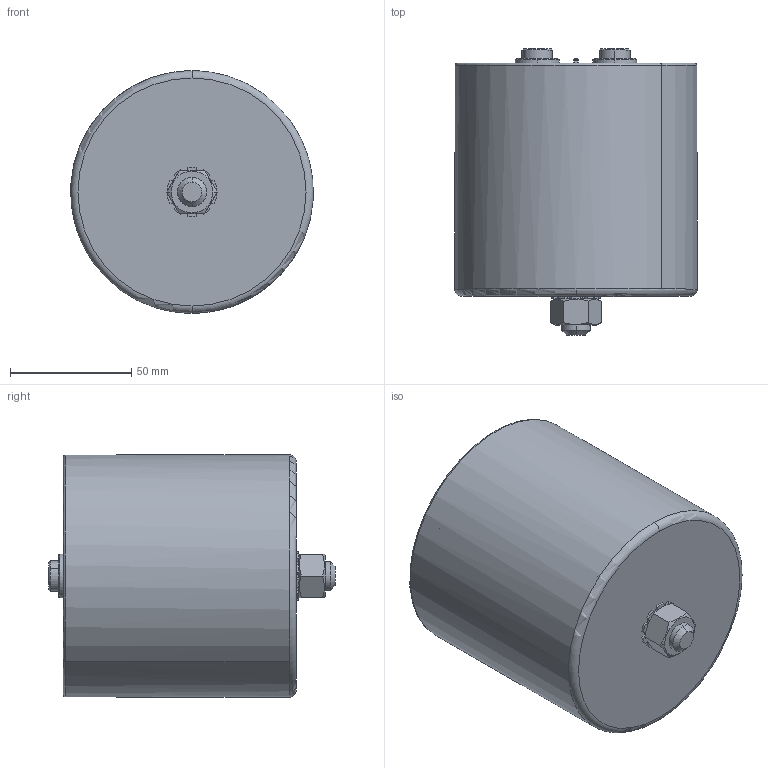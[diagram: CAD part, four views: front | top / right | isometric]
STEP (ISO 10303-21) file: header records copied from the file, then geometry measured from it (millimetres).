
FILE_DESCRIPTION (( 'STEP AP214' ), '1' );
FILE_NAME ('B25696 Series D100Hc96Ht102.STEP', '2025-03-20T05:51:43', ( '' ), ( '' ), 'SwSTEP 2.0', 'SolidWorks 2019', '' );
FILE_SCHEMA (( 'AUTOMOTIVE_DESIGN' ));
Length unit declared in the file: millimetre
Products named in the file (1): B25696 Series D100Hc96Ht102
Bounding box: 99.91 x 118 x 100 mm (x, y, z)
Volume: 96477.6 mm3; surface area: 107455.3 mm2
Topology: 1 solids, 5 shells, 368 faces, 936 edges, 591 vertices
Faces by surface type: plane 166, cylinder 132, cone 50, torus 20
Entity records: 11507 total; most frequent: CARTESIAN_POINT 2600, DIRECTION 1905, ORIENTED_EDGE 1864, EDGE_CURVE 932, AXIS2_PLACEMENT_3D 748, VERTEX_POINT 591, LINE 409, VECTOR 409
